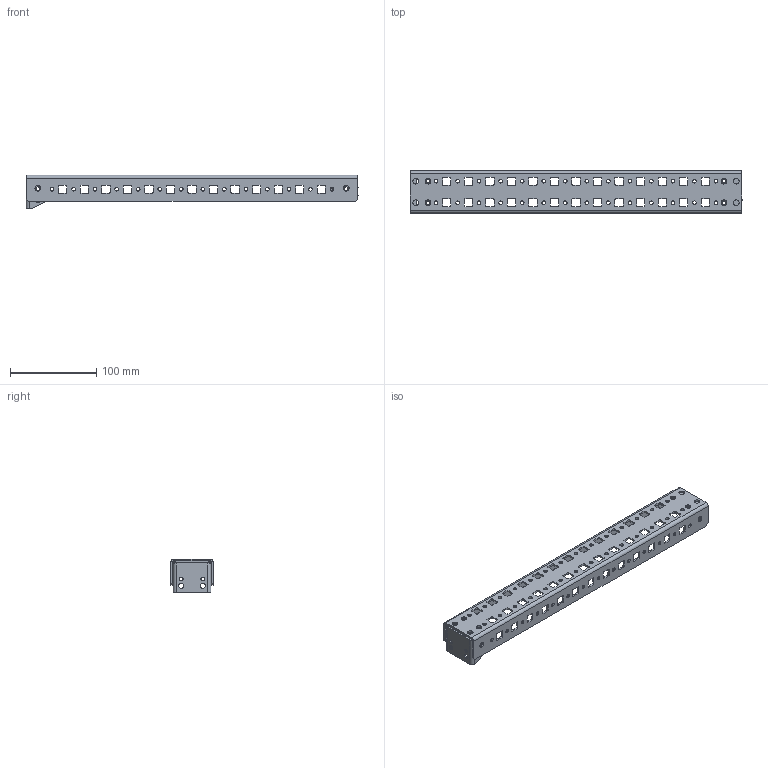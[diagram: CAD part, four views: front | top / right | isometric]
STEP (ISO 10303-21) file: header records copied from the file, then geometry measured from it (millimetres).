
FILE_DESCRIPTION(('STEP AP203'), '1');
FILE_NAME('MG 50.06 L Ðåéêà ìîíòàæíàÿ v2', '2021-05-20T09:07:41', ('UNSPECIFIED'), ('UNSPECIFIED'), 'ASCON STEP Converter 1.3', 'ASCON Math Kernel', '');
FILE_SCHEMA(('CONFIG_CONTROL_DESIGN'));
Length unit declared in the file: millimetre
Products named in the file (3): MG 50.06 L 01.001 Ðåéêà ìîíòàæíàÿ v2; MG 06 L 01.002 Êðîíøòåéí ðåéêè ìîíòàæíîé v2
Assembly tree (3 placements, depth 2):
  (unnamed)
    MG 50.06 L 01.001 Ðåéêà ìîíòàæíàÿ v2
    MG 06 L 01.002 Êðîíøòåéí ðåéêè ìîíòàæíîé v2  x2
Bounding box: 385.55 x 49.15 x 39 mm (x, y, z)
Volume: 81475.2 mm3; surface area: 91406 mm2
Topology: 3 solids, 3 shells, 630 faces, 1792 edges, 1168 vertices
Faces by surface type: cylinder 332, plane 290, bspline 8
Full cylindrical faces by diameter (mm): 4.2 x80, 6 x4, 6.5 x12
Entity records: 24664 total; most frequent: CARTESIAN_POINT 4162, DIRECTION 3302, ORIENTED_EDGE 3136, EDGE_CURVE 1568, AXIS2_PLACEMENT_3D 1174, VERTEX_POINT 1084, LINE 954, VECTOR 954
